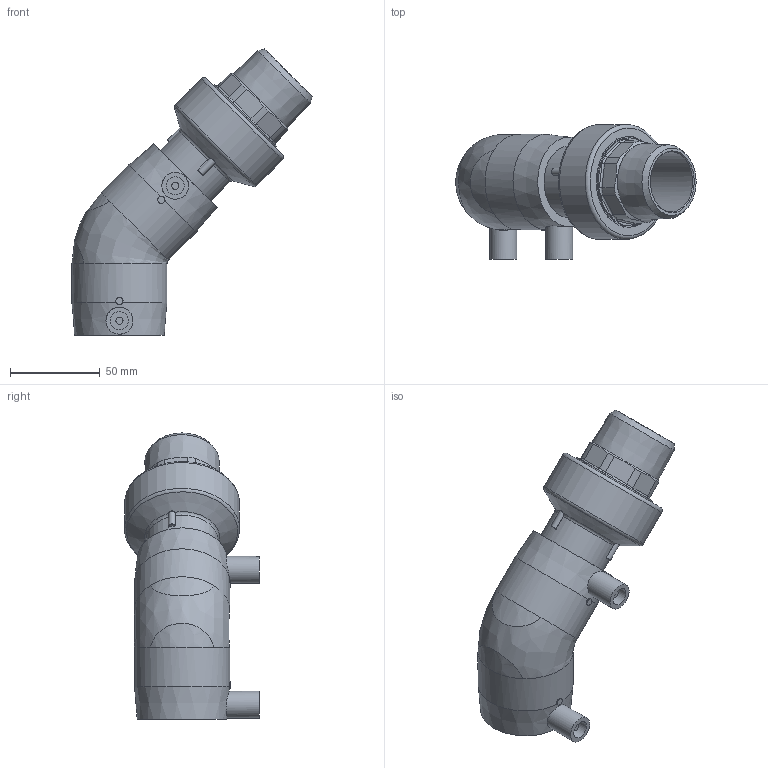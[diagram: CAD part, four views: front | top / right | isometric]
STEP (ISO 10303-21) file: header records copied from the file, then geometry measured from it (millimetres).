
FILE_DESCRIPTION(/* description */ ('Unknown'),/* implementation_level */ '2;1');
FILE_NAME(/* name */ 'GE4TMP040C',/* time_stamp */ '2021-04-26T09:18:49+02:00',/* author */ ('Unknown'),/* organization */ ('Unknown'),/* preprocessor_version */ 'ST-DEVELOPER v16.7',/* originating_system */ 'Solid Edge',/* authorisation */ 'Unknown');
FILE_SCHEMA (('AUTOMOTIVE_DESIGN {1 0 10303 214 3 1 1}'));
Length unit declared in the file: millimetre
Products named in the file (5): GE4TMP040C; GE4P040C; RTOMP040C; Parte PE 040; IOM040C
Assembly tree (4 placements, depth 3):
  GE4TMP040C
    GE4P040C
    RTOMP040C
      Parte PE 040
      IOM040C
Bounding box: 133.79 x 74.93 x 159.3 mm (x, y, z)
Volume: 207674.5 mm3; surface area: 82998.2 mm2
Topology: 3 solids, 3 shells, 532 faces, 1380 edges, 862 vertices
Faces by surface type: cylinder 227, plane 111, bspline 91, cone 67, torus 26, sphere 10
Full cylindrical faces by diameter (mm): 4 x4, 10 x2, 15 x2, 32.6 x1, 33.5 x1, 38 x2, 40 x3, 41.7 x1, 42 x2, 49 x1, 49.5 x2, 53 x2, 54.5 x4, 64 x1
Entity records: 21045 total; most frequent: CARTESIAN_POINT 7640, ORIENTED_EDGE 2560, DIRECTION 2190, EDGE_CURVE 1280, AXIS2_PLACEMENT_3D 977, VERTEX_POINT 825, EDGE_LOOP 605, FACE_BOUND 605
